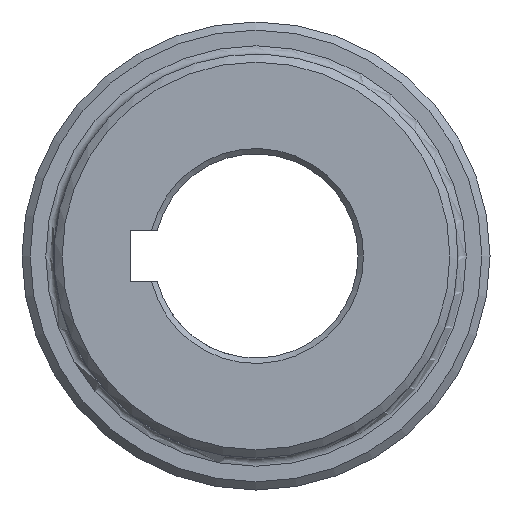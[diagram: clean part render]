
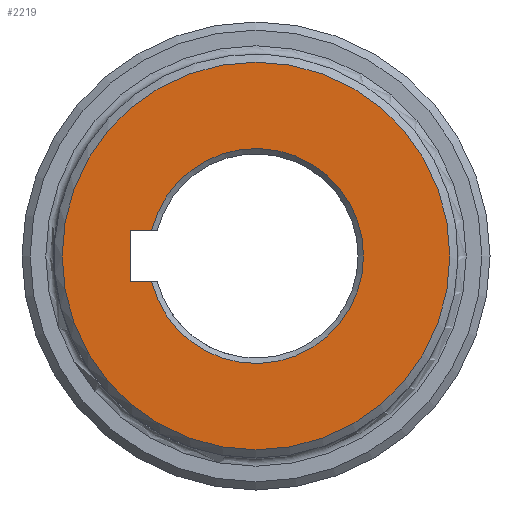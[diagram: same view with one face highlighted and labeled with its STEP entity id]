
A CAD part, left-side view. The second image highlights one B-rep face of the part: STEP entity #2219.
In plain terms, the highlighted planar face has unit normal (-1, 0, 0).
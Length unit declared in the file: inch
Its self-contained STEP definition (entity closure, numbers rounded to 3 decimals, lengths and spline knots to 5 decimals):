
#86 = CARTESIAN_POINT ( 'NONE',  ( 0., 0., 0. ) ) ;
#89 = ORIENTED_EDGE ( 'NONE', *, *, #1084, .T. ) ;
#117 = CARTESIAN_POINT ( 'NONE',  ( 0., 0.91975, 0.1875 ) ) ;
#258 = CARTESIAN_POINT ( 'NONE',  ( 0., 0., 0. ) ) ;
#354 = CIRCLE ( 'NONE', #657, 1.425 ) ;
#378 = VERTEX_POINT ( 'NONE', #2334 ) ;
#409 = CARTESIAN_POINT ( 'NONE',  ( 0., 0.76768, -0.1875 ) ) ;
#421 = EDGE_CURVE ( 'NONE', #378, #2130, #2140, .T. ) ;
#442 = LINE ( 'NONE', #937, #1230 ) ;
#457 = EDGE_LOOP ( 'NONE', ( #2349, #1800, #1015, #1185 ) ) ;
#552 = DIRECTION ( 'NONE',  ( 0., -1., 0. ) ) ;
#652 = AXIS2_PLACEMENT_3D ( 'NONE', #86, #1242, #1445 ) ;
#657 = AXIS2_PLACEMENT_3D ( 'NONE', #258, #2209, #1388 ) ;
#675 = EDGE_CURVE ( 'NONE', #378, #2010, #1931, .T. ) ;
#727 = CARTESIAN_POINT ( 'NONE',  ( 0., 0., 0. ) ) ;
#875 = DIRECTION ( 'NONE',  ( 0., 1., 0. ) ) ;
#937 = CARTESIAN_POINT ( 'NONE',  ( 0., 0., -0.1875 ) ) ;
#1015 = ORIENTED_EDGE ( 'NONE', *, *, #2074, .F. ) ;
#1066 = DIRECTION ( 'NONE',  ( 1., 0., 0. ) ) ;
#1084 = EDGE_CURVE ( 'NONE', #1710, #1710, #354, .T. ) ;
#1183 = LINE ( 'NONE', #1697, #1599 ) ;
#1185 = ORIENTED_EDGE ( 'NONE', *, *, #1690, .F. ) ;
#1197 = CARTESIAN_POINT ( 'NONE',  ( 0., 0., -1.425 ) ) ;
#1230 = VECTOR ( 'NONE', #552, 39.37008 ) ;
#1242 = DIRECTION ( 'NONE',  ( 1., 0., 0. ) ) ;
#1244 = CARTESIAN_POINT ( 'NONE',  ( 0., 0.91975, -0.1875 ) ) ;
#1271 = CARTESIAN_POINT ( 'NONE',  ( 0., 0., 0.1875 ) ) ;
#1343 = VERTEX_POINT ( 'NONE', #1244 ) ;
#1388 = DIRECTION ( 'NONE',  ( 0., 0., -1. ) ) ;
#1401 = FACE_BOUND ( 'NONE', #457, .T. ) ;
#1445 = DIRECTION ( 'NONE',  ( 0., 0., -1. ) ) ;
#1489 = EDGE_LOOP ( 'NONE', ( #89 ) ) ;
#1547 = FACE_OUTER_BOUND ( 'NONE', #1489, .T. ) ;
#1599 = VECTOR ( 'NONE', #2042, 39.37008 ) ;
#1690 = EDGE_CURVE ( 'NONE', #2010, #1343, #1183, .T. ) ;
#1697 = CARTESIAN_POINT ( 'NONE',  ( 0., 0.91975, -0.1875 ) ) ;
#1710 = VERTEX_POINT ( 'NONE', #1197 ) ;
#1713 = AXIS2_PLACEMENT_3D ( 'NONE', #727, #1066, #2018 ) ;
#1741 = VECTOR ( 'NONE', #875, 39.37008 ) ;
#1800 = ORIENTED_EDGE ( 'NONE', *, *, #421, .T. ) ;
#1931 = LINE ( 'NONE', #1271, #1741 ) ;
#2010 = VERTEX_POINT ( 'NONE', #117 ) ;
#2018 = DIRECTION ( 'NONE',  ( 0., 0., -1. ) ) ;
#2042 = DIRECTION ( 'NONE',  ( 0., 0., -1. ) ) ;
#2074 = EDGE_CURVE ( 'NONE', #1343, #2130, #442, .T. ) ;
#2130 = VERTEX_POINT ( 'NONE', #409 ) ;
#2140 = CIRCLE ( 'NONE', #652, 0.79025 ) ;
#2188 = PLANE ( 'NONE',  #1713 ) ;
#2209 = DIRECTION ( 'NONE',  ( -1., 0., 0. ) ) ;
#2219 = ADVANCED_FACE ( 'NONE', ( #1547, #1401 ), #2188, .F. ) ;
#2334 = CARTESIAN_POINT ( 'NONE',  ( 0., 0.76768, 0.1875 ) ) ;
#2349 = ORIENTED_EDGE ( 'NONE', *, *, #675, .F. ) ;
